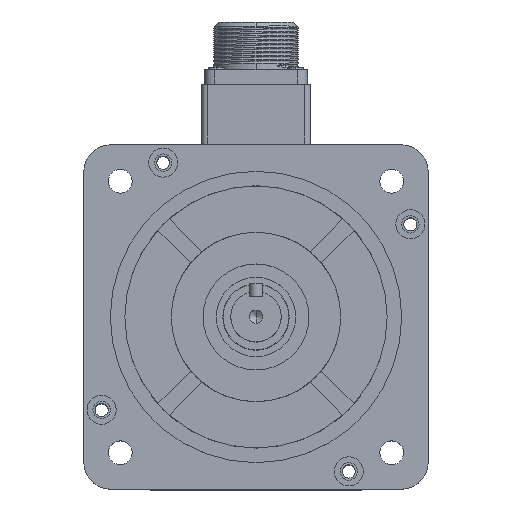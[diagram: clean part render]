
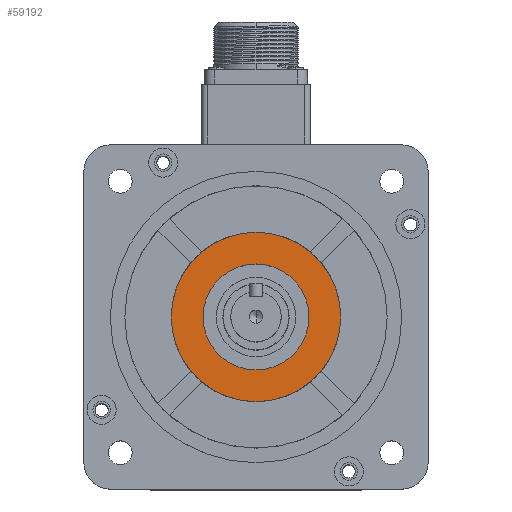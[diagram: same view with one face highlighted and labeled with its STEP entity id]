
A CAD part, top view. The second image highlights one B-rep face of the part: STEP entity #59192.
In plain terms, the highlighted planar face has unit normal (0, 0, 1).
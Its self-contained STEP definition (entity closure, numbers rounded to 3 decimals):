
#2887 = EDGE_CURVE ( 'NONE', #50015, #50017, #16460, .T. ) ;
#2902 = EDGE_CURVE ( 'NONE', #49991, #49992, #15922, .T. ) ;
#15922 = CIRCLE ( 'NONE', #15928, 20. ) ;
#15928 = AXIS2_PLACEMENT_3D ( 'NONE', #18670, #18671, #18672 ) ;
#16277 = AXIS2_PLACEMENT_3D ( 'NONE', #18624, #18625, #18626 ) ;
#16460 = CIRCLE ( 'NONE', #16277, 32. ) ;
#18624 = CARTESIAN_POINT ( 'NONE',  ( 0., 0., 108. ) ) ;
#18625 = DIRECTION ( 'NONE',  ( 0., 0., -1. ) ) ;
#18626 = DIRECTION ( 'NONE',  ( -1., 0., 0. ) ) ;
#18670 = CARTESIAN_POINT ( 'NONE',  ( 0., 0., 108. ) ) ;
#18671 = DIRECTION ( 'NONE',  ( 0., 0., 1. ) ) ;
#18672 = DIRECTION ( 'NONE',  ( -1., 0., 0. ) ) ;
#24400 = CARTESIAN_POINT ( 'NONE',  ( 0., 0., 108. ) ) ;
#24401 = DIRECTION ( 'NONE',  ( 0., 0., 1. ) ) ;
#24402 = DIRECTION ( 'NONE',  ( -1., 0., 0. ) ) ;
#24590 = CARTESIAN_POINT ( 'NONE',  ( 0., 0., 108. ) ) ;
#24591 = DIRECTION ( 'NONE',  ( 0., 0., -1. ) ) ;
#24592 = DIRECTION ( 'NONE',  ( -1., 0., 0. ) ) ;
#25072 = AXIS2_PLACEMENT_3D ( 'NONE', #24590, #24591, #24592 ) ;
#25075 = CIRCLE ( 'NONE', #25072, 32. ) ;
#25360 = AXIS2_PLACEMENT_3D ( 'NONE', #28415, #28428, #28430 ) ;
#28415 = CARTESIAN_POINT ( 'NONE',  ( 0., 20., 108. ) ) ;
#28423 = FACE_OUTER_BOUND ( 'NONE', #37588, .T. ) ;
#28424 = FACE_BOUND ( 'NONE', #37584, .T. ) ;
#28426 = PLANE ( 'NONE',  #25360 ) ;
#28428 = DIRECTION ( 'NONE',  ( 0., 0., -1. ) ) ;
#28430 = DIRECTION ( 'NONE',  ( -1., 0., 0. ) ) ;
#37584 = EDGE_LOOP ( 'NONE', ( #53830, #54065 ) ) ;
#37588 = EDGE_LOOP ( 'NONE', ( #54232, #53881 ) ) ;
#43513 = CIRCLE ( 'NONE', #43515, 20. ) ;
#43515 = AXIS2_PLACEMENT_3D ( 'NONE', #24400, #24401, #24402 ) ;
#46129 = CARTESIAN_POINT ( 'NONE',  ( 20., 0., 108. ) ) ;
#46130 = CARTESIAN_POINT ( 'NONE',  ( -20., 0., 108. ) ) ;
#46153 = CARTESIAN_POINT ( 'NONE',  ( 32., 0., 108. ) ) ;
#46155 = CARTESIAN_POINT ( 'NONE',  ( -32., 0., 108. ) ) ;
#49991 = VERTEX_POINT ( 'NONE', #46129 ) ;
#49992 = VERTEX_POINT ( 'NONE', #46130 ) ;
#50015 = VERTEX_POINT ( 'NONE', #46153 ) ;
#50017 = VERTEX_POINT ( 'NONE', #46155 ) ;
#53830 = ORIENTED_EDGE ( 'NONE', *, *, #58600, .F. ) ;
#53881 = ORIENTED_EDGE ( 'NONE', *, *, #2887, .F. ) ;
#54065 = ORIENTED_EDGE ( 'NONE', *, *, #2902, .F. ) ;
#54232 = ORIENTED_EDGE ( 'NONE', *, *, #58714, .F. ) ;
#58600 = EDGE_CURVE ( 'NONE', #49992, #49991, #43513, .T. ) ;
#58714 = EDGE_CURVE ( 'NONE', #50017, #50015, #25075, .T. ) ;
#59192 = ADVANCED_FACE ( 'NONE', ( #28423, #28424 ), #28426, .F. ) ;
